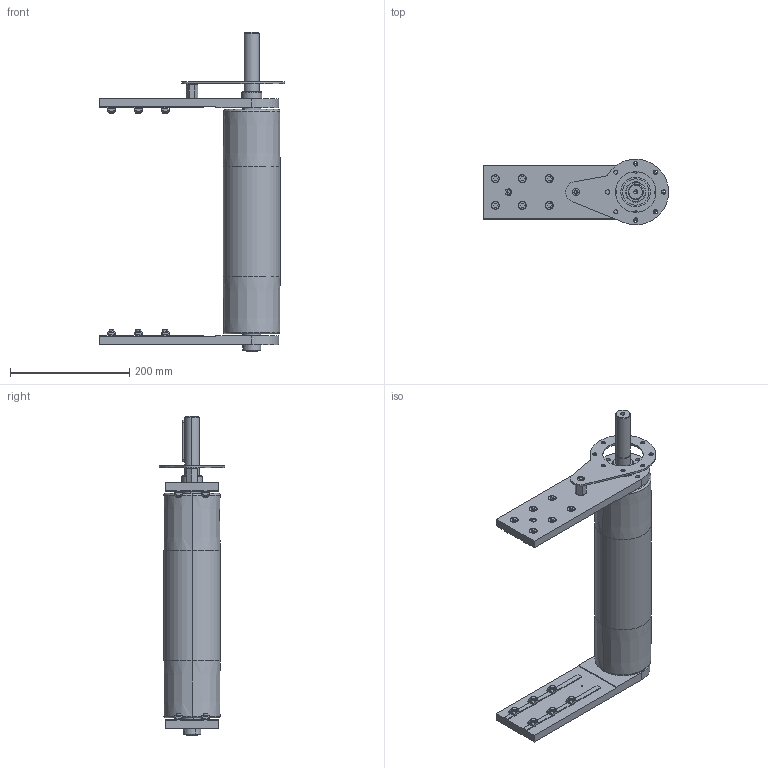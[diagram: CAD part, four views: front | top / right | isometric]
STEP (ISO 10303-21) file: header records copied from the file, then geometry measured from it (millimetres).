
FILE_DESCRIPTION (( 'STEP AP203' ), '1' );
FILE_NAME ('084.095.KD.49.350.STEP', '2013-10-18T08:42:13', ( '' ), ( '' ), 'SwSTEP 2.0', 'SolidWorks 2011', '' );
FILE_SCHEMA (( 'CONFIG_CONTROL_DESIGN' ));
Length unit declared in the file: millimetre
Products named in the file (15): 084.812.003; 084.812.002; 084.301.000 VITI ALUSIC_084.301.003; 084.302.000 DADI ALUSIC 13x13_084.302.004; 084.816.118_084.816.107<A macchina>; 084.802.019_084.802.019; 084.808.004; 084.802.027; 084.095.KD.49.350; CHIAVETTE_A 8x7x70 UNI 6604-69; 084.810.003; 084.802.034_084.802.034; 084.808.002_084.808.002; 084.808.003_084.808.003; Circlip DIN 471 - 30 x 1.5_Circlip DIN 471 - 30 x 1.5
Assembly tree (38 placements, depth 2):
  084.095.KD.49.350
    084.808.004
    084.301.000 VITI ALUSIC_084.301.003  x12
    084.302.000 DADI ALUSIC 13x13_084.302.004  x12
    084.810.003  x2
    084.808.002_084.808.002
    CHIAVETTE_A 8x7x70 UNI 6604-69
    084.816.118_084.816.107<A macchina>
    Circlip DIN 471 - 30 x 1.5_Circlip DIN 471 - 30 x 1.5  x2
    084.808.003_084.808.003
    084.802.034_084.802.034
    084.812.002
    084.802.019_084.802.019
    084.802.027
    084.812.003
Bounding box: 310 x 110 x 534.5 mm (x, y, z)
Volume: 1667522.5 mm3; surface area: 642641.9 mm2
Topology: 43 solids, 44 shells, 958 faces, 2371 edges, 1542 vertices
Faces by surface type: plane 408, cylinder 338, torus 92, cone 63, bspline 48, sphere 9
Entity records: 21404 total; most frequent: CARTESIAN_POINT 4312, DIRECTION 3219, ORIENTED_EDGE 3022, EDGE_CURVE 1511, AXIS2_PLACEMENT_3D 1270, VERTEX_POINT 987, EDGE_LOOP 714, CIRCLE 689
